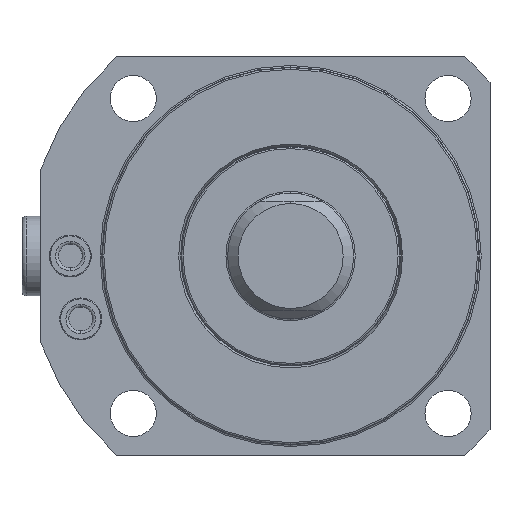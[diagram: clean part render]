
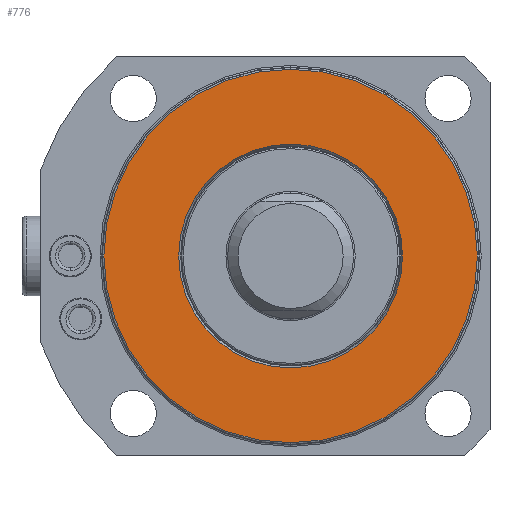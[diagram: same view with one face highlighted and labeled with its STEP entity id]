
A CAD part, front view. The second image highlights one B-rep face of the part: STEP entity #776.
In plain terms, the highlighted planar face has unit normal (0, -1, 0).
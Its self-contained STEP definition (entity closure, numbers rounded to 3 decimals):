
#324=PLANE('',#4186);
#392=FACE_BOUND('',#1283,.T.);
#393=FACE_BOUND('',#1284,.T.);
#776=ADVANCED_FACE('',(#392,#393),#324,.F.);
#1283=EDGE_LOOP('',(#2508,#2509));
#1284=EDGE_LOOP('',(#2510,#2511));
#2508=ORIENTED_EDGE('',*,*,#3338,.F.);
#2509=ORIENTED_EDGE('',*,*,#3382,.F.);
#2510=ORIENTED_EDGE('',*,*,#3257,.T.);
#2511=ORIENTED_EDGE('',*,*,#3412,.T.);
#2844=VERTEX_POINT('',#6437);
#2845=VERTEX_POINT('',#6439);
#2906=VERTEX_POINT('',#6644);
#2907=VERTEX_POINT('',#6645);
#3257=EDGE_CURVE('',#2845,#2844,#3613,.T.);
#3338=EDGE_CURVE('',#2906,#2907,#3658,.T.);
#3382=EDGE_CURVE('',#2907,#2906,#3678,.T.);
#3412=EDGE_CURVE('',#2844,#2845,#3701,.T.);
#3613=CIRCLE('',#4038,26.662);
#3658=CIRCLE('',#4104,44.5);
#3678=CIRCLE('',#4132,44.5);
#3701=CIRCLE('',#4184,26.662);
#4038=AXIS2_PLACEMENT_3D('',#6438,#4991,#4992);
#4104=AXIS2_PLACEMENT_3D('',#6643,#5154,#5155);
#4132=AXIS2_PLACEMENT_3D('',#6773,#5224,#5225);
#4184=AXIS2_PLACEMENT_3D('',#6878,#5330,#5331);
#4186=AXIS2_PLACEMENT_3D('',#6880,#5334,#5335);
#4991=DIRECTION('',(0.,1.,0.));
#4992=DIRECTION('',(0.,0.,1.));
#5154=DIRECTION('',(0.,1.,0.));
#5155=DIRECTION('',(0.,0.,1.));
#5224=DIRECTION('',(0.,1.,0.));
#5225=DIRECTION('',(0.,0.,1.));
#5330=DIRECTION('',(0.,1.,0.));
#5331=DIRECTION('',(0.,0.,1.));
#5334=DIRECTION('',(0.,1.,0.));
#5335=DIRECTION('',(0.,0.,-1.));
#6437=CARTESIAN_POINT('',(0.,65.,26.662));
#6438=CARTESIAN_POINT('',(0.,65.,0.));
#6439=CARTESIAN_POINT('',(0.,65.,-26.662));
#6643=CARTESIAN_POINT('',(0.,65.,0.));
#6644=CARTESIAN_POINT('',(0.,65.,44.5));
#6645=CARTESIAN_POINT('',(0.,65.,-44.5));
#6773=CARTESIAN_POINT('',(0.,65.,0.));
#6878=CARTESIAN_POINT('',(0.,65.,0.));
#6880=CARTESIAN_POINT('',(26.662,65.,0.));
